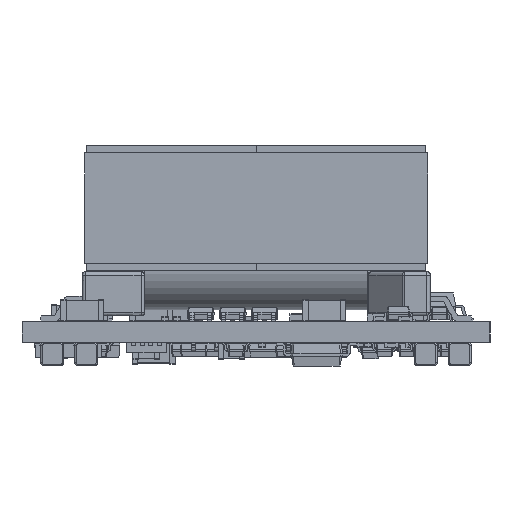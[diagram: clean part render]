
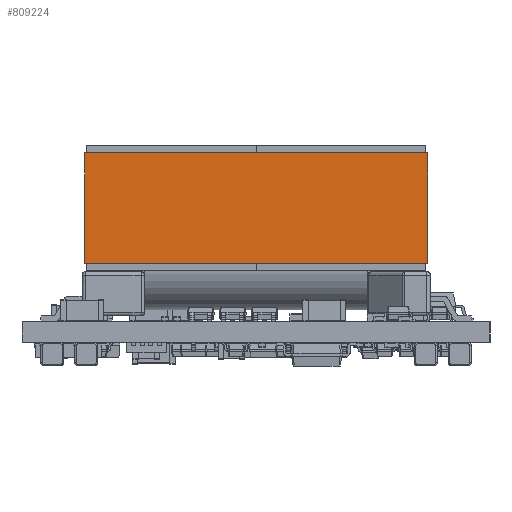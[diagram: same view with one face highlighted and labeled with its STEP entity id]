
A CAD part, left-side view. The second image highlights one B-rep face of the part: STEP entity #809224.
In plain terms, the highlighted face is a extrusion surface.
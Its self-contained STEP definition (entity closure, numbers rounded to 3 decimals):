
#809224 = ADVANCED_FACE('',(#809225),#809239,.T.);
#809225 = FACE_BOUND('',#809226,.T.);
#809226 = EDGE_LOOP('',(#809227,#809252,#809268,#809284));
#809227 = ORIENTED_EDGE('',*,*,#809228,.T.);
#809228 = EDGE_CURVE('',#809229,#809231,#809233,.T.);
#809229 = VERTEX_POINT('',#809230);
#809230 = CARTESIAN_POINT('',(5.227,30.285,4.325));
#809231 = VERTEX_POINT('',#809232);
#809232 = CARTESIAN_POINT('',(5.227,4.665,4.325));
#809233 = SURFACE_CURVE('',#809234,(#809238),.PCURVE_S1.);
#809234 = LINE('',#809235,#809236);
#809235 = CARTESIAN_POINT('',(5.227,30.285,4.325));
#809236 = VECTOR('',#809237,1.);
#809237 = DIRECTION('',(0.,-1.,0.));
#809238 = PCURVE('',#809239,#809246);
#809239 = SURFACE_OF_LINEAR_EXTRUSION('',#809240,#809244);
#809240 = LINE('',#809241,#809242);
#809241 = CARTESIAN_POINT('',(5.227,30.285,4.325));
#809242 = VECTOR('',#809243,1.);
#809243 = DIRECTION('',(0.,-1.,0.));
#809244 = VECTOR('',#809245,1.);
#809245 = DIRECTION('',(0.,0.,1.));
#809246 = DEFINITIONAL_REPRESENTATION('',(#809247),#809251);
#809247 = LINE('',#809248,#809249);
#809248 = CARTESIAN_POINT('',(0.,0.));
#809249 = VECTOR('',#809250,1.);
#809250 = DIRECTION('',(1.,0.));
#809251 = ( GEOMETRIC_REPRESENTATION_CONTEXT(2) 
PARAMETRIC_REPRESENTATION_CONTEXT() REPRESENTATION_CONTEXT('2D SPACE',''
  ) );
#809252 = ORIENTED_EDGE('',*,*,#809253,.T.);
#809253 = EDGE_CURVE('',#809231,#809254,#809256,.T.);
#809254 = VERTEX_POINT('',#809255);
#809255 = CARTESIAN_POINT('',(5.227,4.665,12.585));
#809256 = SURFACE_CURVE('',#809257,(#809261),.PCURVE_S1.);
#809257 = LINE('',#809258,#809259);
#809258 = CARTESIAN_POINT('',(5.227,4.665,4.325));
#809259 = VECTOR('',#809260,1.);
#809260 = DIRECTION('',(0.,0.,1.));
#809261 = PCURVE('',#809239,#809262);
#809262 = DEFINITIONAL_REPRESENTATION('',(#809263),#809267);
#809263 = LINE('',#809264,#809265);
#809264 = CARTESIAN_POINT('',(25.62,0.));
#809265 = VECTOR('',#809266,1.);
#809266 = DIRECTION('',(0.,1.));
#809267 = ( GEOMETRIC_REPRESENTATION_CONTEXT(2) 
PARAMETRIC_REPRESENTATION_CONTEXT() REPRESENTATION_CONTEXT('2D SPACE',''
  ) );
#809268 = ORIENTED_EDGE('',*,*,#809269,.T.);
#809269 = EDGE_CURVE('',#809254,#809270,#809272,.T.);
#809270 = VERTEX_POINT('',#809271);
#809271 = CARTESIAN_POINT('',(5.227,30.285,12.585));
#809272 = SURFACE_CURVE('',#809273,(#809277),.PCURVE_S1.);
#809273 = LINE('',#809274,#809275);
#809274 = CARTESIAN_POINT('',(5.227,4.665,12.585));
#809275 = VECTOR('',#809276,1.);
#809276 = DIRECTION('',(0.,1.,0.));
#809277 = PCURVE('',#809239,#809278);
#809278 = DEFINITIONAL_REPRESENTATION('',(#809279),#809283);
#809279 = LINE('',#809280,#809281);
#809280 = CARTESIAN_POINT('',(25.62,8.26));
#809281 = VECTOR('',#809282,1.);
#809282 = DIRECTION('',(-1.,0.));
#809283 = ( GEOMETRIC_REPRESENTATION_CONTEXT(2) 
PARAMETRIC_REPRESENTATION_CONTEXT() REPRESENTATION_CONTEXT('2D SPACE',''
  ) );
#809284 = ORIENTED_EDGE('',*,*,#809285,.T.);
#809285 = EDGE_CURVE('',#809270,#809229,#809286,.T.);
#809286 = SURFACE_CURVE('',#809287,(#809291),.PCURVE_S1.);
#809287 = LINE('',#809288,#809289);
#809288 = CARTESIAN_POINT('',(5.227,30.285,12.585));
#809289 = VECTOR('',#809290,1.);
#809290 = DIRECTION('',(0.,0.,-1.));
#809291 = PCURVE('',#809239,#809292);
#809292 = DEFINITIONAL_REPRESENTATION('',(#809293),#809297);
#809293 = LINE('',#809294,#809295);
#809294 = CARTESIAN_POINT('',(0.,8.26));
#809295 = VECTOR('',#809296,1.);
#809296 = DIRECTION('',(0.,-1.));
#809297 = ( GEOMETRIC_REPRESENTATION_CONTEXT(2) 
PARAMETRIC_REPRESENTATION_CONTEXT() REPRESENTATION_CONTEXT('2D SPACE',''
  ) );
